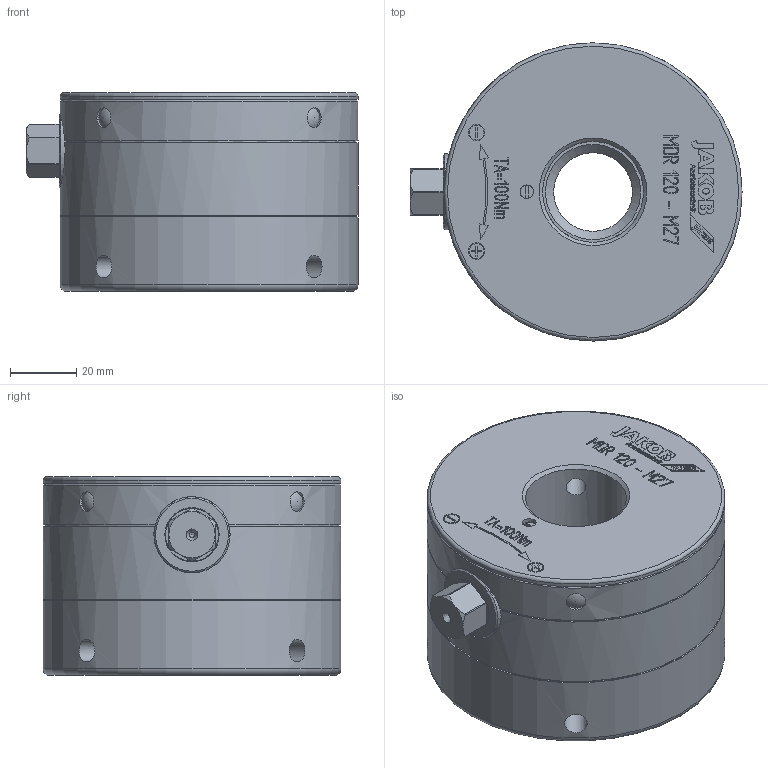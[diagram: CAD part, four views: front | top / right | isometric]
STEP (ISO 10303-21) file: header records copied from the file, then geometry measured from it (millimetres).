
FILE_DESCRIPTION( ( 'Unknown' ), '1' );
FILE_NAME( 'F:/PR/14_Step-Dateien/MDR - MDR-F/MDR 120 - M27 - SW 14.stp', 'Unknown', ( 'Unknown' ), ( 'Unknown' ), 'PSStep 10.1', 'Unknown', ' ' );
FILE_SCHEMA( ( 'AUTOMOTIVE_DESIGN { 1 0 10303 214 1 1 1 1 }' ) );
Length unit declared in the file: millimetre
Products named in the file (1): Text-MDR 100 - M27
Bounding box: 100.3 x 90 x 60.1 mm (x, y, z)
Volume: 344215.2 mm3; surface area: 37326.3 mm2
Topology: 1 solids, 9 shells, 607 faces, 1527 edges, 1018 vertices
Faces by surface type: plane 431, cylinder 67, extrusion 53, cone 36, sphere 16, torus 4
Full cylindrical faces by diameter (mm): 1.6 x2, 4.134 x1, 4.5 x2, 5 x2, 6 x8, 6.8 x8, 12 x1, 16 x1, 23.752 x1, 30.5 x1, 32.5 x1, 42 x1, 89 x1, 90 x4
Entity records: 25600 total; most frequent: CARTESIAN_POINT 7069, ORIENTED_EDGE 2738, DIRECTION 2545, EDGE_CURVE 1369, VECTOR 1091, LINE 1038, VERTEX_POINT 953, EDGE_LOOP 784
